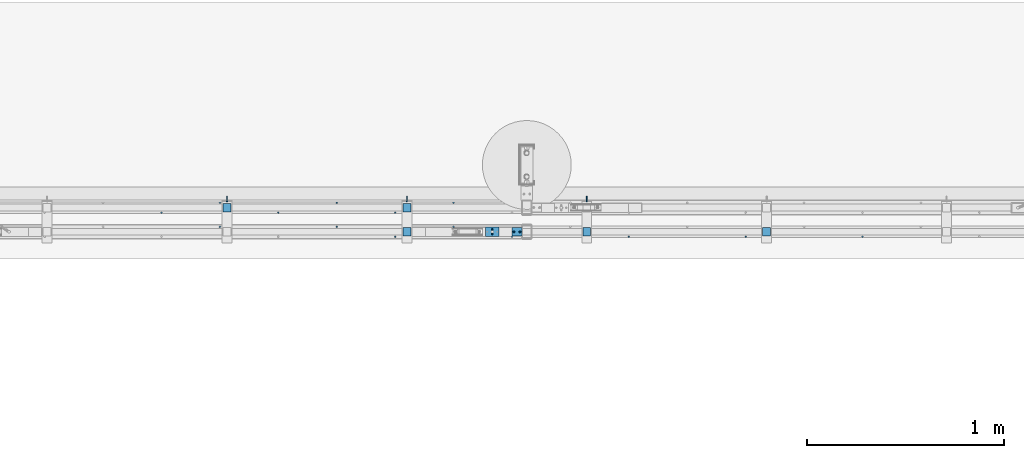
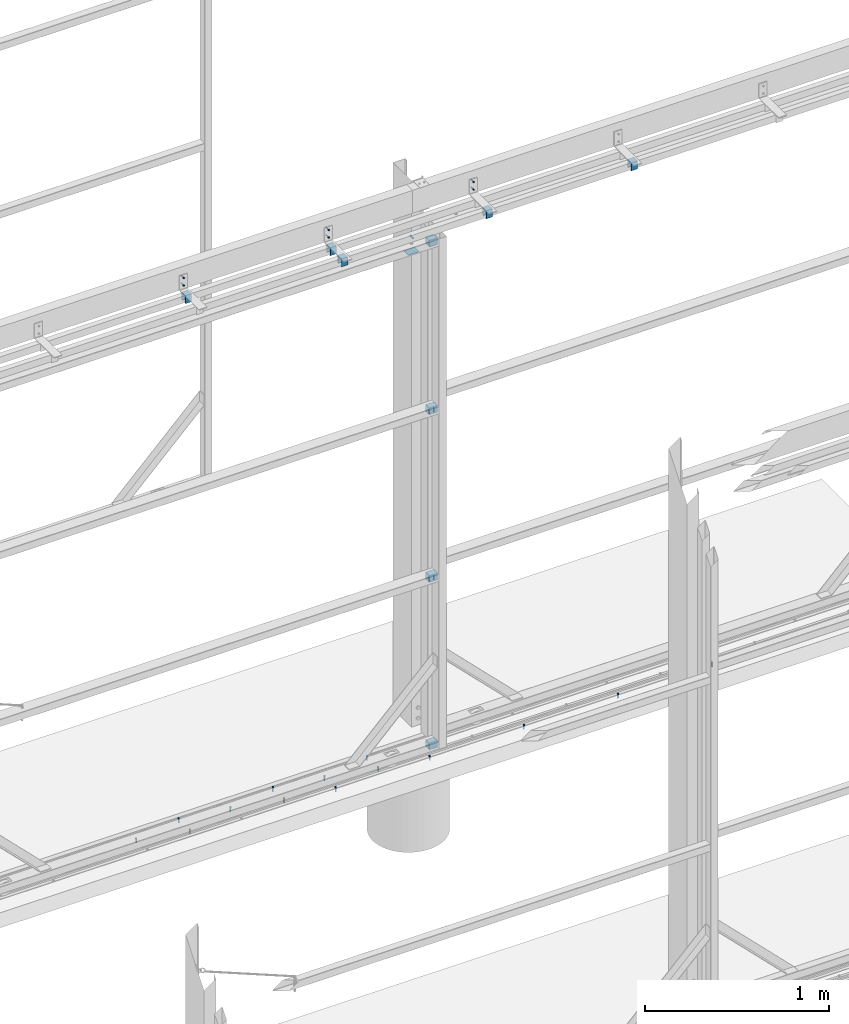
# One storey, part 50 of 91: 21 mechanical fasteners, 11 discrete accessories, 8 elements without a shape of their own.
"""IFC2X3 building model written with IfcOpenShell, lengths in millimetres."""

from ifc_helpers import new_model, si_unit, frame, origin_with_axes, origin_2d_with_axis, place, context, subcontext, project, spatial, polyline, hollow_rectangle, circle, c_section, outline, extrude, source, transform, mapped, material, type_object, element, aggregate, save


model = new_model("IFC2X3")

# Units and contexts
model_context = context("Model", 3, precision=1e-05, world=origin_with_axes())
body_context = subcontext(model_context, "Body", "Model", "MODEL_VIEW")
ifc_project = project(units=[si_unit("LENGTHUNIT", "METRE", prefix="MILLI"), si_unit("AREAUNIT", "SQUARE_METRE"), si_unit("VOLUMEUNIT", "CUBIC_METRE"), si_unit("MASSUNIT", "GRAM", prefix="KILO"), si_unit("TIMEUNIT", "SECOND"), si_unit("PLANEANGLEUNIT", "RADIAN"), si_unit("SOLIDANGLEUNIT", "STERADIAN"), si_unit("THERMODYNAMICTEMPERATUREUNIT", "DEGREE_CELSIUS"), si_unit("LUMINOUSINTENSITYUNIT", "LUMEN")], contexts=[model_context])

# Site, building, storey
site_placement = place(None, origin_with_axes())
site = spatial("IfcSite", under=ifc_project, at=site_placement, Name="Undefined", CompositionType="ELEMENT")
building_placement = place(site_placement, origin_with_axes())
building = spatial("IfcBuilding", under=site, at=building_placement, Name="Undefined", CompositionType="ELEMENT")
storey_placement = place(building_placement, origin_with_axes())
storey = spatial("IfcBuildingStorey", under=building, at=storey_placement, Name="Undefined", CompositionType="ELEMENT", Elevation=0.0)

# Assembly, discrete accessories
assembly_1_placement = place(storey_placement, origin_with_axes())
assembly_1 = element("IfcElementAssembly", 1, at=assembly_1_placement, inside=storey, Name="ROD", AssemblyPlace="NOTDEFINED", PredefinedType="RIGID_FRAME")
ifc_material_1 = material(Name="STEEL/250")
discrete_accessory_type_1 = type_object("IfcDiscreteAccessoryType", Name="PLATE")
discrete_accessory_1_placement = place(assembly_1_placement, frame((-110930.84, 87615.15, 3324.5), z_axis=(0.0, 0.0, 1.0), x_axis=(0.0, -1.0, 0.0)))
discrete_accessory_1 = element("IfcDiscreteAccessory", 2, at=discrete_accessory_1_placement, type_object=discrete_accessory_type_1, material=ifc_material_1, Name="PLATE", ObjectType="PLT3*50", context=body_context, shape_type="SweptSolid", body=[
    extrude(outline(polyline([(0.0, 0.0), (50.0, 0.0), (50.0, 70.0), (0.0, 70.0), (0.0, 0.0)])), frame((0.0, 0.0, -1.5), z_axis=(0.0, 0.0, 1.0), x_axis=(1.0, 0.0, 0.0)), (0.0, 0.0, 1.0), 3.0),
])
discrete_accessory_type_2 = type_object("IfcDiscreteAccessoryType", Name="SPRING PIN")
discrete_accessory_2_placement = place(assembly_1_placement, frame((-110895.84, 87575.15, 3421.0), z_axis=(1.0, 0.0, 0.0), x_axis=(0.0, 1.0, 0.0)))
discrete_accessory_2 = element("IfcDiscreteAccessory", 3, at=discrete_accessory_2_placement, type_object=discrete_accessory_type_2, material=ifc_material_1, Name="SPRING PIN", ObjectType="D6", context=body_context, shape_type="SweptSolid", body=[
    extrude(circle(Radius=3.0, at=origin_2d_with_axis()), frame((30.0, 0.0, 0.0), z_axis=(-1.0, 0.0, 0.0), x_axis=(0.0, -1.0, 0.0)), (0.0, 0.0, 1.0), 30.0),
])
aggregate(assembly_1, [discrete_accessory_2, discrete_accessory_1])

# Assembly, mechanical fastener
assembly_2_placement = place(storey_placement, origin_with_axes())
assembly_2 = element("IfcElementAssembly", 4, at=assembly_2_placement, inside=storey, Name="DOOR BRACKET", AssemblyPlace="NOTDEFINED", PredefinedType="RIGID_FRAME")
ifc_material_2 = material(Name="TEK_11TPIM")
discrete_accessory_type_3 = type_object("IfcDiscreteAccessoryType", Name="Bolt assembly")
shared_shape_1 = source(origin_with_axes(), body_context, "Body", "SweptSolid", [
    extrude(circle(Radius=3.0, at=origin_2d_with_axis()), frame((0.0, -6.0, 0.0), z_axis=(0.0, 1.0, 0.0), x_axis=(1.0, 0.0, 0.0)), (0.0, 0.0, 1.0), 6.1),
    extrude(outline(polyline([(4.61880215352, 0.0), (2.30940107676, 4.00000000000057), (-2.30940107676, 4.00000000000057), (-4.61880215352, 0.0), (-2.30940107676, -4.00000000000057), (2.30940107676, -4.00000000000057), (4.61880215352, 0.0)])), frame((0.0, -11.1000000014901, 0.0), z_axis=(0.0, 1.0, 0.0), x_axis=(1.0, 0.0, 0.0)), (0.0, 0.0, 1.0), 5.0),
    extrude(circle(Radius=3.0, at=origin_2d_with_axis()), frame((0.0, -6.10000000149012, 0.0), z_axis=(0.0, 1.0, 0.0), x_axis=(1.0, 0.0, 0.0)), (0.0, 0.0, 1.0), 25.0),
    extrude(circle(Radius=3.0, at=origin_2d_with_axis()), frame((0.0, -6.10000000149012, 0.0), z_axis=(0.0, 1.0, 0.0), x_axis=(1.0, 0.0, 0.0)), (0.0, 0.0, 1.0), 0.1),
    extrude(circle(Radius=3.0, at=origin_2d_with_axis()), frame((0.0, 0.0, 0.0), z_axis=(0.0, 1.0, 0.0), x_axis=(1.0, 0.0, 0.0)), (0.0, 0.0, 1.0), 0.1),
    extrude(outline(polyline([(3.46410161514, 0.0), (1.73205080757, 3.00000000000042), (-1.73205080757, 3.00000000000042), (-3.46410161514, 0.0), (-1.73205080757, -3.00000000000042), (1.73205080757, -3.00000000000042), (3.46410161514, 0.0)])), frame((0.0, 0.1, 0.0), z_axis=(0.0, 1.0, 0.0), x_axis=(1.0, 0.0, 0.0)), (0.0, 0.0, 1.0), 0.1),
])
mechanical_fastener_1_placement = place(assembly_2_placement, frame((-110417.09, 87752.15, 3524.0), z_axis=(1.0, 0.0, 0.0), x_axis=(0.0, 0.0, -1.0)))
mechanical_fastener_1 = element("IfcMechanicalFastener", 5, at=mechanical_fastener_1_placement, type_object=discrete_accessory_type_3, material=ifc_material_2, Name="Bolt assembly", NominalDiameter=6.0, NominalLength=25.0, context=body_context, shape_type="MappedRepresentation", body=[
    mapped(shared_shape_1, transform((0.0, 0.0, 0.0))),
    mapped(shared_shape_1, transform((50.0, 0.0, 0.0))),
])

assembly_3_placement = place(storey_placement, origin_with_axes())
assembly_3 = element("IfcElementAssembly", 6, at=assembly_3_placement, inside=storey, Name="DOOR BRACKET", AssemblyPlace="NOTDEFINED", PredefinedType="RIGID_FRAME")
mechanical_fastener_2_placement = place(assembly_3_placement, frame((-111328.34, 87752.15, 3524.0), z_axis=(1.0, 0.0, 0.0), x_axis=(0.0, 0.0, -1.0)))
mechanical_fastener_2 = element("IfcMechanicalFastener", 7, at=mechanical_fastener_2_placement, type_object=discrete_accessory_type_3, material=ifc_material_2, Name="Bolt assembly", NominalDiameter=6.0, NominalLength=25.0, context=body_context, shape_type="MappedRepresentation", body=[
    mapped(shared_shape_1, transform((0.0, 0.0, 0.0))),
    mapped(shared_shape_1, transform((50.0, 0.0, 0.0))),
])

assembly_4_placement = place(storey_placement, origin_with_axes())
assembly_4 = element("IfcElementAssembly", 8, at=assembly_4_placement, inside=storey, Name="DOOR BRACKET", AssemblyPlace="NOTDEFINED", PredefinedType="RIGID_FRAME")
mechanical_fastener_3_placement = place(assembly_4_placement, frame((-112239.59, 87752.15, 3524.0), z_axis=(1.0, 0.0, 0.0), x_axis=(0.0, 0.0, -1.0)))
mechanical_fastener_3 = element("IfcMechanicalFastener", 9, at=mechanical_fastener_3_placement, type_object=discrete_accessory_type_3, material=ifc_material_2, Name="Bolt assembly", NominalDiameter=6.0, NominalLength=25.0, context=body_context, shape_type="MappedRepresentation", body=[
    mapped(shared_shape_1, transform((0.0, 0.0, 0.0))),
    mapped(shared_shape_1, transform((50.0, 0.0, 0.0))),
])

# Assembly, mechanical fasteners
assembly_5_placement = place(storey_placement, origin_with_axes())
assembly_5 = element("IfcElementAssembly", 10, at=assembly_5_placement, inside=storey, Name="SLIDING DOOR", AssemblyPlace="NOTDEFINED", PredefinedType="RIGID_FRAME")
shared_shape_2 = source(origin_with_axes(), body_context, "Body", "SweptSolid", [
    extrude(circle(Radius=3.0, at=origin_2d_with_axis()), frame((0.0, 0.103333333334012, 0.0), z_axis=(0.0, 1.0, 0.0), x_axis=(1.0, 0.0, 0.0)), (0.0, 0.0, 1.0), 2.0),
    extrude(circle(Radius=3.0, at=origin_2d_with_axis()), frame((0.0, 2.4, 0.0), z_axis=(0.0, 1.0, 0.0), x_axis=(1.0, 0.0, 0.0)), (0.0, 0.0, 1.0), 1.7),
    extrude(outline(polyline([(4.61880215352, 0.0), (2.30940107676, 4.00000000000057), (-2.30940107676, 4.00000000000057), (-4.61880215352, 0.0), (-2.30940107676, -4.00000000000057), (2.30940107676, -4.00000000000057), (4.61880215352, 0.0)])), frame((0.0, -4.99666666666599, 0.0), z_axis=(0.0, 1.0, 0.0), x_axis=(1.0, 0.0, 0.0)), (0.0, 0.0, 1.0), 5.0),
    extrude(circle(Radius=3.0, at=origin_2d_with_axis()), frame((0.0, 0.0033333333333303, 0.0), z_axis=(0.0, 1.0, 0.0), x_axis=(1.0, 0.0, 0.0)), (0.0, 0.0, 1.0), 25.0),
    extrude(circle(Radius=3.0, at=origin_2d_with_axis()), frame((0.0, 4.10000002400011, 0.0), z_axis=(0.0, 1.0, 0.0), x_axis=(1.0, 0.0, 0.0)), (0.0, 0.0, 1.0), 0.1),
    extrude(outline(polyline([(3.46410161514, 0.0), (1.73205080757, 3.00000000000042), (-1.73205080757, 3.00000000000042), (-3.46410161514, 0.0), (-1.73205080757, -3.00000000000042), (1.73205080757, -3.00000000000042), (3.46410161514, 0.0)])), frame((0.0, 4.20000002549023, 0.0), z_axis=(0.0, 1.0, 0.0), x_axis=(1.0, 0.0, 0.0)), (0.0, 0.0, 1.0), 0.1),
])
mechanical_fastener_4_placement = place(assembly_5_placement, frame((-110785.84, 87590.15, 2211.66), z_axis=(0.0, -1.0, 0.0), x_axis=(1.0, 0.0, 0.0)))
mechanical_fastener_4 = element("IfcMechanicalFastener", 11, at=mechanical_fastener_4_placement, type_object=discrete_accessory_type_3, material=ifc_material_2, Name="Bolt assembly", NominalDiameter=6.0, NominalLength=25.0, context=body_context, shape_type="MappedRepresentation", body=[
    mapped(shared_shape_2, transform((0.0, 0.0, 0.0))),
    mapped(shared_shape_2, transform((30.0, 0.0, 0.0))),
])
shared_shape_3 = source(origin_with_axes(), body_context, "Body", "SweptSolid", [
    extrude(circle(Radius=3.0, at=origin_2d_with_axis()), frame((0.0, 0.0966666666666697, 0.0), z_axis=(0.0, 1.0, 0.0), x_axis=(1.0, 0.0, 0.0)), (0.0, 0.0, 1.0), 2.0),
    extrude(circle(Radius=3.0, at=origin_2d_with_axis()), frame((0.0, 2.4, 0.0), z_axis=(0.0, 1.0, 0.0), x_axis=(1.0, 0.0, 0.0)), (0.0, 0.0, 1.0), 1.7),
    extrude(outline(polyline([(4.61880215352, 0.0), (2.30940107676, 4.00000000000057), (-2.30940107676, 4.00000000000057), (-4.61880215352, 0.0), (-2.30940107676, -4.00000000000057), (2.30940107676, -4.00000000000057), (4.61880215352, 0.0)])), frame((0.0, -5.00333333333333, 0.0), z_axis=(0.0, 1.0, 0.0), x_axis=(1.0, 0.0, 0.0)), (0.0, 0.0, 1.0), 5.0),
    extrude(circle(Radius=3.0, at=origin_2d_with_axis()), frame((0.0, -0.0033333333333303, 0.0), z_axis=(0.0, 1.0, 0.0), x_axis=(1.0, 0.0, 0.0)), (0.0, 0.0, 1.0), 25.0),
    extrude(circle(Radius=3.0, at=origin_2d_with_axis()), frame((0.0, 4.10000002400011, 0.0), z_axis=(0.0, 1.0, 0.0), x_axis=(1.0, 0.0, 0.0)), (0.0, 0.0, 1.0), 0.1),
    extrude(outline(polyline([(3.46410161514, 0.0), (1.73205080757, 3.00000000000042), (-1.73205080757, 3.00000000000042), (-3.46410161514, 0.0), (-1.73205080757, -3.00000000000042), (1.73205080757, -3.00000000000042), (3.46410161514, 0.0)])), frame((0.0, 4.20000002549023, 0.0), z_axis=(0.0, 1.0, 0.0), x_axis=(1.0, 0.0, 0.0)), (0.0, 0.0, 1.0), 0.1),
])
mechanical_fastener_5_placement = place(assembly_5_placement, frame((-110785.84, 87590.15, 1097.34), z_axis=(0.0, -1.0, 0.0), x_axis=(1.0, 0.0, 0.0)))
mechanical_fastener_5 = element("IfcMechanicalFastener", 12, at=mechanical_fastener_5_placement, type_object=discrete_accessory_type_3, material=ifc_material_2, Name="Bolt assembly", NominalDiameter=6.0, NominalLength=25.0, context=body_context, shape_type="MappedRepresentation", body=[
    mapped(shared_shape_3, transform((0.0, 0.0, 0.0))),
    mapped(shared_shape_3, transform((30.0, 0.0, 0.0))),
])
ifc_material_3 = material(Name="TEK_16TPIM")
shared_shape_4 = source(origin_with_axes(), body_context, "Body", "SweptSolid", [
    extrude(circle(Radius=3.5, at=origin_2d_with_axis()), frame((0.0, 0.1, 0.0), z_axis=(0.0, 1.0, 0.0), x_axis=(1.0, 0.0, 0.0)), (0.0, 0.0, 1.0), 2.0),
    extrude(circle(Radius=3.5, at=origin_2d_with_axis()), frame((0.0, 2.4, 0.0), z_axis=(0.0, 1.0, 0.0), x_axis=(1.0, 0.0, 0.0)), (0.0, 0.0, 1.0), 1.7),
    extrude(outline(polyline([(4.04145188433, 0.0), (2.020725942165, 3.5000000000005), (-2.020725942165, 3.5000000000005), (-4.04145188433, 0.0), (-2.020725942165, -3.5000000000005), (2.020725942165, -3.5000000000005), (4.04145188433, 0.0)])), frame((0.0, -5.0, 0.0), z_axis=(0.0, 1.0, 0.0), x_axis=(1.0, 0.0, 0.0)), (0.0, 0.0, 1.0), 5.0),
    extrude(circle(Radius=2.5, at=origin_2d_with_axis()), frame((0.0, 0.0, 0.0), z_axis=(0.0, 1.0, 0.0), x_axis=(1.0, 0.0, 0.0)), (0.0, 0.0, 1.0), 25.0),
    extrude(circle(Radius=2.5, at=origin_2d_with_axis()), frame((0.0, 4.10000002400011, 0.0), z_axis=(0.0, 1.0, 0.0), x_axis=(1.0, 0.0, 0.0)), (0.0, 0.0, 1.0), 0.1),
    extrude(outline(polyline([(2.88675134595, 0.0), (1.443375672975, 2.50000000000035), (-1.443375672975, 2.50000000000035), (-2.88675134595, 0.0), (-1.443375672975, -2.50000000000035), (1.443375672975, -2.50000000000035), (2.88675134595, 0.0)])), frame((0.0, 4.20000002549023, 0.0), z_axis=(0.0, 1.0, 0.0), x_axis=(1.0, 0.0, 0.0)), (0.0, 0.0, 1.0), 0.1),
])
mechanical_fastener_6_placement = place(assembly_5_placement, frame((-110785.84, 87590.15, -17.0), z_axis=(0.0, -1.0, 0.0), x_axis=(1.0, 0.0, 0.0)))
mechanical_fastener_6 = element("IfcMechanicalFastener", 13, at=mechanical_fastener_6_placement, type_object=discrete_accessory_type_3, material=ifc_material_3, Name="Bolt assembly", NominalDiameter=5.0, NominalLength=25.0, context=body_context, shape_type="MappedRepresentation", body=[
    mapped(shared_shape_4, transform((0.0, 0.0, 0.0))),
    mapped(shared_shape_4, transform((30.0, 0.0, 0.0))),
])
shared_shape_5 = source(origin_with_axes(), body_context, "Body", "SweptSolid", [
    extrude(circle(Radius=3.0, at=origin_2d_with_axis()), frame((0.0, 0.1, 0.0), z_axis=(0.0, 1.0, 0.0), x_axis=(1.0, 0.0, 0.0)), (0.0, 0.0, 1.0), 2.0),
    extrude(circle(Radius=3.0, at=origin_2d_with_axis()), frame((0.0, 2.4, 0.0), z_axis=(0.0, 1.0, 0.0), x_axis=(1.0, 0.0, 0.0)), (0.0, 0.0, 1.0), 1.7),
    extrude(outline(polyline([(4.61880215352, 0.0), (2.30940107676, 4.00000000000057), (-2.30940107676, 4.00000000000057), (-4.61880215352, 0.0), (-2.30940107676, -4.00000000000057), (2.30940107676, -4.00000000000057), (4.61880215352, 0.0)])), frame((0.0, -5.0, 0.0), z_axis=(0.0, 1.0, 0.0), x_axis=(1.0, 0.0, 0.0)), (0.0, 0.0, 1.0), 5.0),
    extrude(circle(Radius=3.0, at=origin_2d_with_axis()), frame((0.0, 0.0, 0.0), z_axis=(0.0, 1.0, 0.0), x_axis=(1.0, 0.0, 0.0)), (0.0, 0.0, 1.0), 25.0),
    extrude(circle(Radius=3.0, at=origin_2d_with_axis()), frame((0.0, 4.10000002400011, 0.0), z_axis=(0.0, 1.0, 0.0), x_axis=(1.0, 0.0, 0.0)), (0.0, 0.0, 1.0), 0.1),
    extrude(outline(polyline([(3.46410161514, 0.0), (1.73205080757, 3.00000000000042), (-1.73205080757, 3.00000000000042), (-3.46410161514, 0.0), (-1.73205080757, -3.00000000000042), (1.73205080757, -3.00000000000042), (3.46410161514, 0.0)])), frame((0.0, 4.20000002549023, 0.0), z_axis=(0.0, 1.0, 0.0), x_axis=(1.0, 0.0, 0.0)), (0.0, 0.0, 1.0), 0.1),
])
mechanical_fastener_7_placement = place(assembly_5_placement, frame((-110785.84, 87590.15, 3326.0), z_axis=(0.0, -1.0, 0.0), x_axis=(1.0, 0.0, 0.0)))
mechanical_fastener_7 = element("IfcMechanicalFastener", 14, at=mechanical_fastener_7_placement, type_object=discrete_accessory_type_3, material=ifc_material_2, Name="Bolt assembly", NominalDiameter=6.0, NominalLength=25.0, context=body_context, shape_type="MappedRepresentation", body=[
    mapped(shared_shape_5, transform((0.0, 0.0, 0.0))),
    mapped(shared_shape_5, transform((30.0, 0.0, 0.0))),
])

assembly_6_placement = place(storey_placement, origin_with_axes())
assembly_6 = element("IfcElementAssembly", 15, at=assembly_6_placement, inside=storey, Name="DOOR TRACK", AssemblyPlace="NOTDEFINED", PredefinedType="RIGID_FRAME")
ifc_material_4 = material(Name="TEK_10TPII")
shared_shape_6 = source(origin_with_axes(), body_context, "Body", "SweptSolid", [
    extrude(circle(Radius=4.07999992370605, at=origin_2d_with_axis()), frame((0.0, 0.0, 0.0), z_axis=(0.0, 1.0, 0.0), x_axis=(1.0, 0.0, 0.0)), (0.0, 0.0, 1.0), 3.1),
    extrude(outline(polyline([(4.61880215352, 0.0), (2.30940107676, 4.00000000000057), (-2.30940107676, 4.00000000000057), (-4.61880215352, 0.0), (-2.30940107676, -4.00000000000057), (2.30940107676, -4.00000000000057), (4.61880215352, 0.0)])), frame((0.0, -5.0, 0.0), z_axis=(0.0, 1.0, 0.0), x_axis=(1.0, 0.0, 0.0)), (0.0, 0.0, 1.0), 5.0),
    extrude(circle(Radius=3.07999992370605, at=origin_2d_with_axis()), frame((0.0, 0.0, 0.0), z_axis=(0.0, 1.0, 0.0), x_axis=(1.0, 0.0, 0.0)), (0.0, 0.0, 1.0), 25.0),
    extrude(circle(Radius=3.0, at=origin_2d_with_axis()), frame((0.0, 3.0, 0.0), z_axis=(0.0, 1.0, 0.0), x_axis=(1.0, 0.0, 0.0)), (0.0, 0.0, 1.0), 0.1),
    extrude(outline(polyline([(3.46410161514, 0.0), (1.73205080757, 3.00000000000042), (-1.73205080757, 3.00000000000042), (-3.46410161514, 0.0), (-1.73205080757, -3.00000000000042), (1.73205080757, -3.00000000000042), (3.46410161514, 0.0)])), frame((0.0, 3.10000000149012, 0.0), z_axis=(0.0, 1.0, 0.0), x_axis=(1.0, 0.0, 0.0)), (0.0, 0.0, 1.0), 0.1),
])
mechanical_fastener_8_placement = place(assembly_6_placement, frame((-111091.74, 87737.151953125, -54.0), z_axis=(0.0, 1.0, 0.0), x_axis=(1.0, 0.0, 0.0)))
mechanical_fastener_8 = element("IfcMechanicalFastener", 16, at=mechanical_fastener_8_placement, type_object=discrete_accessory_type_3, material=ifc_material_4, Name="Bolt assembly", NominalDiameter=6.15999984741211, NominalLength=25.0, context=body_context, shape_type="MappedRepresentation", body=[
    mapped(shared_shape_6, transform((0.0, 0.0, 0.0))),
])
mechanical_fastener_9_placement = place(assembly_6_placement, frame((-111387.64, 87687.151953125, -54.0), z_axis=(0.0, 1.0, 0.0), x_axis=(1.0, 0.0, 0.0)))
mechanical_fastener_9 = element("IfcMechanicalFastener", 17, at=mechanical_fastener_9_placement, type_object=discrete_accessory_type_3, material=ifc_material_4, Name="Bolt assembly", NominalDiameter=6.15999984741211, NominalLength=25.0, context=body_context, shape_type="MappedRepresentation", body=[
    mapped(shared_shape_6, transform((0.0, 0.0, 0.0))),
])
mechanical_fastener_10_placement = place(assembly_6_placement, frame((-111683.54, 87737.151953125, -54.0), z_axis=(0.0, 1.0, 0.0), x_axis=(1.0, 0.0, 0.0)))
mechanical_fastener_10 = element("IfcMechanicalFastener", 18, at=mechanical_fastener_10_placement, type_object=discrete_accessory_type_3, material=ifc_material_4, Name="Bolt assembly", NominalDiameter=6.15999984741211, NominalLength=25.0, context=body_context, shape_type="MappedRepresentation", body=[
    mapped(shared_shape_6, transform((0.0, 0.0, 0.0))),
])
mechanical_fastener_11_placement = place(assembly_6_placement, frame((-111979.44, 87687.151953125, -54.0), z_axis=(0.0, 1.0, 0.0), x_axis=(1.0, 0.0, 0.0)))
mechanical_fastener_11 = element("IfcMechanicalFastener", 19, at=mechanical_fastener_11_placement, type_object=discrete_accessory_type_3, material=ifc_material_4, Name="Bolt assembly", NominalDiameter=6.15999984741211, NominalLength=25.0, context=body_context, shape_type="MappedRepresentation", body=[
    mapped(shared_shape_6, transform((0.0, 0.0, 0.0))),
])
mechanical_fastener_12_placement = place(assembly_6_placement, frame((-112275.34, 87737.151953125, -54.0), z_axis=(0.0, 1.0, 0.0), x_axis=(1.0, 0.0, 0.0)))
mechanical_fastener_12 = element("IfcMechanicalFastener", 20, at=mechanical_fastener_12_placement, type_object=discrete_accessory_type_3, material=ifc_material_4, Name="Bolt assembly", NominalDiameter=6.15999984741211, NominalLength=25.0, context=body_context, shape_type="MappedRepresentation", body=[
    mapped(shared_shape_6, transform((0.0, 0.0, 0.0))),
])
mechanical_fastener_13_placement = place(assembly_6_placement, frame((-112571.24, 87687.151953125, -54.0), z_axis=(0.0, 1.0, 0.0), x_axis=(1.0, 0.0, 0.0)))
mechanical_fastener_13 = element("IfcMechanicalFastener", 21, at=mechanical_fastener_13_placement, type_object=discrete_accessory_type_3, material=ifc_material_4, Name="Bolt assembly", NominalDiameter=6.15999984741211, NominalLength=25.0, context=body_context, shape_type="MappedRepresentation", body=[
    mapped(shared_shape_6, transform((0.0, 0.0, 0.0))),
])
aggregate(assembly_6, [mechanical_fastener_8, mechanical_fastener_9, mechanical_fastener_10, mechanical_fastener_11, mechanical_fastener_12, mechanical_fastener_13])

assembly_7_placement = place(storey_placement, origin_with_axes())
assembly_7 = element("IfcElementAssembly", 22, at=assembly_7_placement, inside=storey, Name="DOOR TRACK", AssemblyPlace="NOTDEFINED", PredefinedType="RIGID_FRAME")
mechanical_fastener_14_placement = place(assembly_7_placement, frame((-109020.44, 87565.151953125, -54.0), z_axis=(0.0, 1.0, 0.0), x_axis=(1.0, 0.0, 0.0)))
mechanical_fastener_14 = element("IfcMechanicalFastener", 23, at=mechanical_fastener_14_placement, type_object=discrete_accessory_type_3, material=ifc_material_4, Name="Bolt assembly", NominalDiameter=6.15999984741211, NominalLength=25.0, context=body_context, shape_type="MappedRepresentation", body=[
    mapped(shared_shape_6, transform((0.0, 0.0, 0.0))),
])
mechanical_fastener_15_placement = place(assembly_7_placement, frame((-109612.24, 87565.151953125, -54.0), z_axis=(0.0, 1.0, 0.0), x_axis=(1.0, 0.0, 0.0)))
mechanical_fastener_15 = element("IfcMechanicalFastener", 24, at=mechanical_fastener_15_placement, type_object=discrete_accessory_type_3, material=ifc_material_4, Name="Bolt assembly", NominalDiameter=6.15999984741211, NominalLength=25.0, context=body_context, shape_type="MappedRepresentation", body=[
    mapped(shared_shape_6, transform((0.0, 0.0, 0.0))),
])
mechanical_fastener_16_placement = place(assembly_7_placement, frame((-110204.04, 87565.151953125, -54.0), z_axis=(0.0, 1.0, 0.0), x_axis=(1.0, 0.0, 0.0)))
mechanical_fastener_16 = element("IfcMechanicalFastener", 25, at=mechanical_fastener_16_placement, type_object=discrete_accessory_type_3, material=ifc_material_4, Name="Bolt assembly", NominalDiameter=6.15999984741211, NominalLength=25.0, context=body_context, shape_type="MappedRepresentation", body=[
    mapped(shared_shape_6, transform((0.0, 0.0, 0.0))),
])
mechanical_fastener_17_placement = place(assembly_7_placement, frame((-110795.84, 87565.151953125, -54.0), z_axis=(0.0, 1.0, 0.0), x_axis=(1.0, 0.0, 0.0)))
mechanical_fastener_17 = element("IfcMechanicalFastener", 26, at=mechanical_fastener_17_placement, type_object=discrete_accessory_type_3, material=ifc_material_4, Name="Bolt assembly", NominalDiameter=6.15999984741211, NominalLength=25.0, context=body_context, shape_type="MappedRepresentation", body=[
    mapped(shared_shape_6, transform((0.0, 0.0, 0.0))),
])
mechanical_fastener_18_placement = place(assembly_7_placement, frame((-111091.74, 87615.151953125, -54.0), z_axis=(0.0, 1.0, 0.0), x_axis=(1.0, 0.0, 0.0)))
mechanical_fastener_18 = element("IfcMechanicalFastener", 27, at=mechanical_fastener_18_placement, type_object=discrete_accessory_type_3, material=ifc_material_4, Name="Bolt assembly", NominalDiameter=6.15999984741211, NominalLength=25.0, context=body_context, shape_type="MappedRepresentation", body=[
    mapped(shared_shape_6, transform((0.0, 0.0, 0.0))),
])
mechanical_fastener_19_placement = place(assembly_7_placement, frame((-111387.64, 87565.151953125, -54.0), z_axis=(0.0, 1.0, 0.0), x_axis=(1.0, 0.0, 0.0)))
mechanical_fastener_19 = element("IfcMechanicalFastener", 28, at=mechanical_fastener_19_placement, type_object=discrete_accessory_type_3, material=ifc_material_4, Name="Bolt assembly", NominalDiameter=6.15999984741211, NominalLength=25.0, context=body_context, shape_type="MappedRepresentation", body=[
    mapped(shared_shape_6, transform((0.0, 0.0, 0.0))),
])
mechanical_fastener_20_placement = place(assembly_7_placement, frame((-111683.54, 87615.151953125, -54.0), z_axis=(0.0, 1.0, 0.0), x_axis=(1.0, 0.0, 0.0)))
mechanical_fastener_20 = element("IfcMechanicalFastener", 29, at=mechanical_fastener_20_placement, type_object=discrete_accessory_type_3, material=ifc_material_4, Name="Bolt assembly", NominalDiameter=6.15999984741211, NominalLength=25.0, context=body_context, shape_type="MappedRepresentation", body=[
    mapped(shared_shape_6, transform((0.0, 0.0, 0.0))),
])
mechanical_fastener_21_placement = place(assembly_7_placement, frame((-112275.34, 87615.151953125, -54.0), z_axis=(0.0, 1.0, 0.0), x_axis=(1.0, 0.0, 0.0)))
mechanical_fastener_21 = element("IfcMechanicalFastener", 30, at=mechanical_fastener_21_placement, type_object=discrete_accessory_type_3, material=ifc_material_4, Name="Bolt assembly", NominalDiameter=6.15999984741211, NominalLength=25.0, context=body_context, shape_type="MappedRepresentation", body=[
    mapped(shared_shape_6, transform((0.0, 0.0, 0.0))),
])
aggregate(assembly_7, [mechanical_fastener_14, mechanical_fastener_15, mechanical_fastener_16, mechanical_fastener_17, mechanical_fastener_18, mechanical_fastener_19, mechanical_fastener_20, mechanical_fastener_21])

# Assembly, discrete accessory
assembly_8_placement = place(storey_placement, origin_with_axes())
assembly_8 = element("IfcElementAssembly", 31, at=assembly_8_placement, inside=storey, Name="DOOR BRACKET", AssemblyPlace="NOTDEFINED", PredefinedType="RIGID_FRAME")
discrete_accessory_type_4 = type_object("IfcDiscreteAccessoryType", Name="SLIDING DOOR BRACKET")
discrete_accessory_3_placement = place(assembly_8_placement, frame((-109525.84, 87590.15, 3417.5), z_axis=(0.0, -1.0, 0.0), x_axis=(1.0, 0.0, 0.0)))
discrete_accessory_3 = element("IfcDiscreteAccessory", 32, at=discrete_accessory_3_placement, type_object=discrete_accessory_type_4, material=ifc_material_1, Name="SLIDING DOOR BRACKET", ObjectType="CC41-1.5-7-53", context=body_context, shape_type="SweptSolid", body=[
    extrude(c_section(Depth=41.0, Width=53.0, WallThickness=1.5, Girth=7.0, at=origin_2d_with_axis()), frame((40.0, 0.0, 0.0), z_axis=(-1.0, 0.0, 0.0), x_axis=(0.0, -1.0, 0.0)), (0.0, 0.0, 1.0), 40.0),
])
aggregate(assembly_8, [discrete_accessory_3])

# Discrete accessory
discrete_accessory_4_placement = place(assembly_2_placement, frame((-110437.09, 87590.15, 3417.5), z_axis=(0.0, -1.0, 0.0), x_axis=(1.0, 0.0, 0.0)))
discrete_accessory_4 = element("IfcDiscreteAccessory", 33, at=discrete_accessory_4_placement, type_object=discrete_accessory_type_4, material=ifc_material_1, Name="SLIDING DOOR BRACKET", ObjectType="CC41-1.5-7-53", context=body_context, shape_type="SweptSolid", body=[
    extrude(c_section(Depth=41.0, Width=53.0, WallThickness=1.5, Girth=7.0, at=origin_2d_with_axis()), frame((40.0, 0.0, 0.0), z_axis=(-1.0, 0.0, 0.0), x_axis=(0.0, -1.0, 0.0)), (0.0, 0.0, 1.0), 40.0),
])

aggregate(assembly_2, [mechanical_fastener_1, discrete_accessory_4])

discrete_accessory_5_placement = place(assembly_3_placement, frame((-111348.34, 87590.15, 3417.5), z_axis=(0.0, -1.0, 0.0), x_axis=(1.0, 0.0, 0.0)))
discrete_accessory_5 = element("IfcDiscreteAccessory", 34, at=discrete_accessory_5_placement, type_object=discrete_accessory_type_4, material=ifc_material_1, Name="SLIDING DOOR BRACKET", ObjectType="CC41-1.5-7-53", context=body_context, shape_type="SweptSolid", body=[
    extrude(c_section(Depth=41.0, Width=53.0, WallThickness=1.5, Girth=7.0, at=origin_2d_with_axis()), frame((40.0, 0.0, 0.0), z_axis=(-1.0, 0.0, 0.0), x_axis=(0.0, -1.0, 0.0)), (0.0, 0.0, 1.0), 40.0),
])

discrete_accessory_6_placement = place(assembly_3_placement, frame((-111348.34, 87712.15, 3417.5), z_axis=(0.0, -1.0, 0.0), x_axis=(1.0, 0.0, 0.0)))
discrete_accessory_6 = element("IfcDiscreteAccessory", 35, at=discrete_accessory_6_placement, type_object=discrete_accessory_type_4, material=ifc_material_1, Name="SLIDING DOOR BRACKET", ObjectType="CC41-1.5-7-53", context=body_context, shape_type="SweptSolid", body=[
    extrude(c_section(Depth=41.0, Width=53.0, WallThickness=1.5, Girth=7.0, at=origin_2d_with_axis()), frame((40.0, 0.0, 0.0), z_axis=(-1.0, 0.0, 0.0), x_axis=(0.0, -1.0, 0.0)), (0.0, 0.0, 1.0), 40.0),
])

aggregate(assembly_3, [mechanical_fastener_2, discrete_accessory_5, discrete_accessory_6])

discrete_accessory_7_placement = place(assembly_4_placement, frame((-112259.59, 87712.15, 3417.5), z_axis=(0.0, -1.0, 0.0), x_axis=(1.0, 0.0, 0.0)))
discrete_accessory_7 = element("IfcDiscreteAccessory", 36, at=discrete_accessory_7_placement, type_object=discrete_accessory_type_4, material=ifc_material_1, Name="SLIDING DOOR BRACKET", ObjectType="CC41-1.5-7-53", context=body_context, shape_type="SweptSolid", body=[
    extrude(c_section(Depth=41.0, Width=53.0, WallThickness=1.5, Girth=7.0, at=origin_2d_with_axis()), frame((40.0, 0.0, 0.0), z_axis=(-1.0, 0.0, 0.0), x_axis=(0.0, -1.0, 0.0)), (0.0, 0.0, 1.0), 40.0),
])

aggregate(assembly_4, [mechanical_fastener_3, discrete_accessory_7])

ifc_material_5 = material(Name="STEEL/300")
discrete_accessory_type_5 = type_object("IfcDiscreteAccessoryType", Name="SLIDING DOOR")
discrete_accessory_8_placement = place(assembly_5_placement, frame((-110745.84, 87590.15, 3351.0), z_axis=(0.0, -1.0, 0.0), x_axis=(-1.0, 0.0, 0.0)))
discrete_accessory_8 = element("IfcDiscreteAccessory", 37, at=discrete_accessory_8_placement, type_object=discrete_accessory_type_5, material=ifc_material_5, Name="SLIDING DOOR", ObjectType="SHS:45X45X1.6", context=body_context, shape_type="SweptSolid", body=[
    extrude(hollow_rectangle(XDim=45.0, YDim=45.0, WallThickness=1.600000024, InnerFilletRadius=1.600000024, OuterFilletRadius=3.200000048, at=origin_2d_with_axis()), frame((50.0, 0.0, 0.0), z_axis=(-1.0, 0.0, 0.0), x_axis=(0.0, -1.0, 0.0)), (0.0, 0.0, 1.0), 50.0),
])

discrete_accessory_9_placement = place(assembly_5_placement, frame((-110745.84, 87590.15, 2236.66), z_axis=(0.0, -1.0, 0.0), x_axis=(-1.0, 0.0, 0.0)))
discrete_accessory_9 = element("IfcDiscreteAccessory", 38, at=discrete_accessory_9_placement, type_object=discrete_accessory_type_5, material=ifc_material_5, Name="SLIDING DOOR", ObjectType="SHS:45X45X1.6", context=body_context, shape_type="SweptSolid", body=[
    extrude(hollow_rectangle(XDim=45.0, YDim=45.0, WallThickness=1.600000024, InnerFilletRadius=1.600000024, OuterFilletRadius=3.200000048, at=origin_2d_with_axis()), frame((50.0, 0.0, 0.0), z_axis=(-1.0, 0.0, 0.0), x_axis=(0.0, -1.0, 0.0)), (0.0, 0.0, 1.0), 50.0),
])

discrete_accessory_10_placement = place(assembly_5_placement, frame((-110745.84, 87590.15, 1122.34), z_axis=(0.0, -1.0, 0.0), x_axis=(-1.0, 0.0, 0.0)))
discrete_accessory_10 = element("IfcDiscreteAccessory", 39, at=discrete_accessory_10_placement, type_object=discrete_accessory_type_5, material=ifc_material_5, Name="SLIDING DOOR", ObjectType="SHS:45X45X1.6", context=body_context, shape_type="SweptSolid", body=[
    extrude(hollow_rectangle(XDim=45.0, YDim=45.0, WallThickness=1.600000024, InnerFilletRadius=1.600000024, OuterFilletRadius=3.200000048, at=origin_2d_with_axis()), frame((50.0, 0.0, 0.0), z_axis=(-1.0, 0.0, 0.0), x_axis=(0.0, -1.0, 0.0)), (0.0, 0.0, 1.0), 50.0),
])

discrete_accessory_11_placement = place(assembly_5_placement, frame((-110745.84, 87590.15, 8.0), z_axis=(0.0, -1.0, 0.0), x_axis=(-1.0, 0.0, 0.0)))
discrete_accessory_11 = element("IfcDiscreteAccessory", 40, at=discrete_accessory_11_placement, type_object=discrete_accessory_type_5, material=ifc_material_5, Name="SLIDING DOOR", ObjectType="SHS:45X45X1.6", context=body_context, shape_type="SweptSolid", body=[
    extrude(hollow_rectangle(XDim=45.0, YDim=45.0, WallThickness=1.600000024, InnerFilletRadius=1.600000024, OuterFilletRadius=3.200000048, at=origin_2d_with_axis()), frame((50.0, 0.0, 0.0), z_axis=(-1.0, 0.0, 0.0), x_axis=(0.0, -1.0, 0.0)), (0.0, 0.0, 1.0), 50.0),
])

aggregate(assembly_5, [mechanical_fastener_4, mechanical_fastener_5, mechanical_fastener_6, mechanical_fastener_7, discrete_accessory_8, discrete_accessory_9, discrete_accessory_10, discrete_accessory_11])

save(model, "model.ifc")
